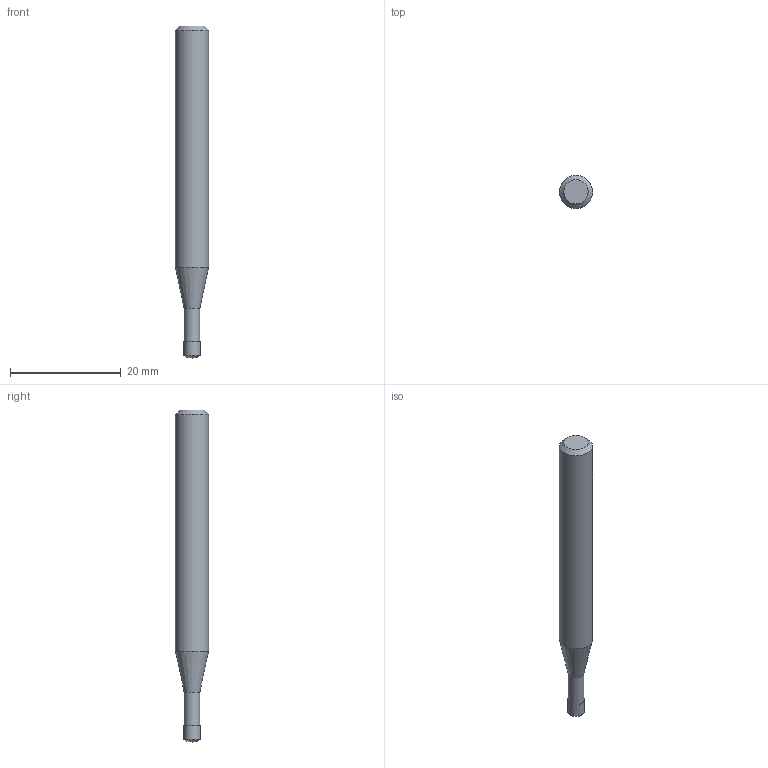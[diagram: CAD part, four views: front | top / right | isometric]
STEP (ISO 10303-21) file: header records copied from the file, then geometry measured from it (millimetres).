
FILE_DESCRIPTION((''),'2;1');
FILE_NAME('C:\Users\nsx150\AppData\Local\Temp\Mastercam 2022\ZJNICECW0E\TEMP.stp','2023-10-12T14:22:31',(''),(''),'STEP Write','Mastercam 2022 ... CNC Software, Inc.','');
FILE_SCHEMA(('AUTOMOTIVE_DESIGN'));
Length unit declared in the file: millimetre
Products named in the file (1): None
Bounding box: 6 x 6 x 60 mm (x, y, z)
Volume: 1403.8 mm3; surface area: 1044.7 mm2
Topology: 2 solids, 2 shells, 11 faces, 17 edges, 10 vertices
Faces by surface type: plane 4, cylinder 3, cone 2, sphere 1, torus 1
Full cylindrical faces by diameter (mm): 2.85 x1, 3 x1, 6 x1
Entity records: 253 total; most frequent: DIRECTION 44, CARTESIAN_POINT 31, AXIS2_PLACEMENT_3D 22, ORIENTED_EDGE 18, EDGE_LOOP 18, STYLED_ITEM 14, ADVANCED_FACE 11, FACE_BOUND 11
